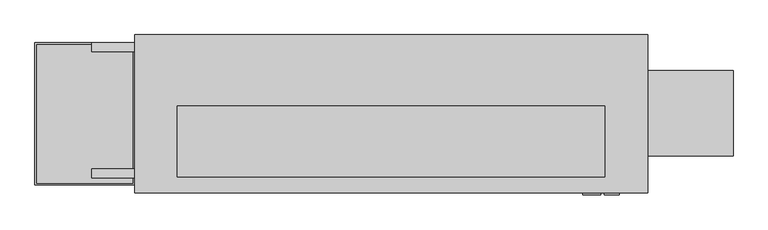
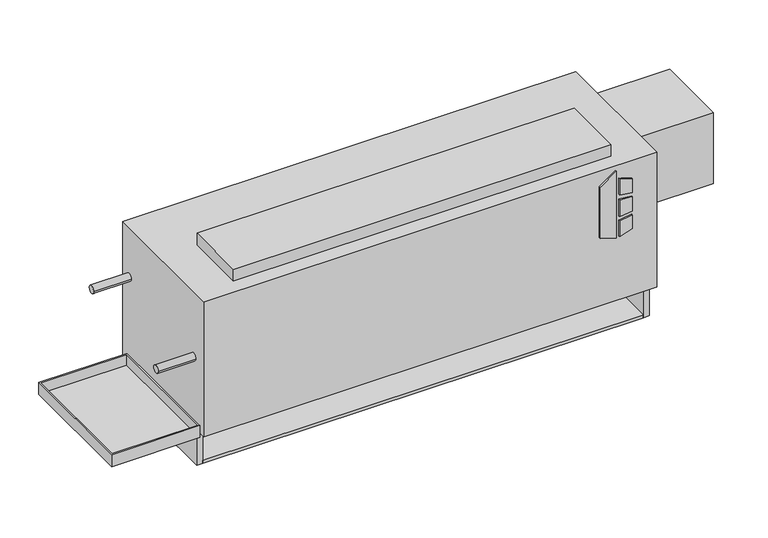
"""IFC4 building model written with IfcOpenShell, lengths in millimetres: proxy geometry, Concealed_Vertical_Low_Boy_Fan_Coil_Unit Fan_-_LHA_-_IEC_-_2-Pipe_LH_2022 : Size 04 - 277v/60Hz/1Ph - 2/1 Coil."""

from ifc_helpers import new_model, si_unit, point, frame, frame_2d, origin, origin_with_axes, place, context, project, spatial, polyline, circle_curve, trimmed, segment, composite_curve, outline, extrude, faceted_brep, source, transform, mapped, element, save


def mechanical_equipment_c72fa6f0(model_context):
    return source(origin(), model_context, "Body", "SolidModel", [
        faceted_brep([(152.4, -252.4125, 92.075), (-25.4, -252.4125, 92.075), (-25.4, -506.4125, 92.075), (152.4, -506.4125, 92.075), (-22.225, -255.5875, 92.075), (149.225, -255.5875, 92.075), (149.225, -503.2375, 92.075), (-22.225, -503.2375, 92.075), (152.4, -252.4125, 66.675), (152.4, -506.4125, 66.675), (-25.4, -506.4125, 66.675), (-25.4, -252.4125, 66.675), (149.225, -255.5875, 69.8497888), (-22.225, -255.5875, 69.8497888), (-22.225, -503.2375, 69.8497888), (149.225, -503.2375, 69.8497888)], [[[0, 1, 2, 3], [4, 5, 6, 7]], [[8, 9, 10, 11]], [[1, 0, 8, 11]], [[2, 1, 11, 10]], [[3, 2, 10, 9]], [[0, 3, 9, 8]], [[12, 13, 14, 15]], [[13, 12, 5, 4]], [[14, 13, 4, 7]], [[15, 14, 7, 6]], [[12, 15, 6, 5]]]),
        extrude(outline(composite_curve([segment(trimmed(circle_curve(frame_2d((63.5, -379.4125)), 9.525), [point((53.975, -379.4125))], [point((73.025, -379.4125))], False, "CARTESIAN"), True, "CONTINUOUS"), segment(trimmed(circle_curve(frame_2d((63.5, -379.4125)), 9.525), [point((73.025, -379.4125))], [point((53.975, -379.4125))], False, "CARTESIAN"), True, "CONTINUOUS")], self_intersect=False)), frame((0.0, 0.0, 41.275), z_axis=(0.0, 0.0, 1.0), x_axis=(1.0, 0.0, 0.0)), (0.0, 0.0, 1.0), 25.4),
        extrude(outline(polyline([(222.6730703, 950.9868862), (212.725, 983.1602728), (354.8959244, 983.1602728), (331.8739183, 950.9868862), (222.6730703, 950.9868862)])), frame((0.0, -523.875, 0.0), z_axis=(0.0, 1.0, 0.0), x_axis=(0.0, 0.0, 1.0)), (0.0, 0.0, 1.0), 3.175),
        extrude(outline(polyline([(301.6723557, 989.9186058), (298.4699632, 1016.0), (327.6988042, 1016.0), (335.7632193, 989.9186058), (301.6723557, 989.9186058)])), frame((0.0, -523.875, 0.0), z_axis=(0.0, 1.0, 0.0), x_axis=(0.0, 0.0, 1.0)), (0.0, 0.0, 1.0), 3.175),
        extrude(outline(polyline([(249.8088288, 1016.0), (246.1433279, 989.9186058), (212.725, 989.9186058), (221.3592372, 1016.0), (249.8088288, 1016.0)])), frame((0.0, -523.875, 0.0), z_axis=(0.0, 1.0, 0.0), x_axis=(0.0, 0.0, 1.0)), (0.0, 0.0, 1.0), 3.175),
        extrude(outline(polyline([(289.1239903, 1016.0), (291.4058166, 989.9186058), (255.4682681, 989.9186058), (258.2095331, 1016.0), (289.1239903, 1016.0)])), frame((0.0, -523.875, 0.0), z_axis=(0.0, 1.0, 0.0), x_axis=(0.0, 0.0, 1.0)), (0.0, 0.0, 1.0), 3.175),
        extrude(outline(polyline([(990.6, -365.125), (990.6, -492.125), (228.6, -492.125), (228.6, -365.125), (990.6, -365.125)])), frame((0.0, 0.0, 365.125), z_axis=(0.0, 0.0, 1.0), x_axis=(1.0, 0.0, 0.0)), (0.0, 0.0, 1.0), 25.4),
        extrude(outline(polyline([(1066.8, -520.7), (152.4, -520.7), (152.4, -238.125), (1066.8, -238.125), (1066.8, -520.7)])), frame((0.0, 0.0, 76.2), z_axis=(0.0, 0.0, 1.0), x_axis=(1.0, 0.0, 0.0)), (0.0, 0.0, 1.0), 288.925),
        extrude(outline(polyline([(1054.1, -495.3), (165.1, -495.3), (165.1, -244.475), (1054.1, -244.475), (1054.1, -495.3)])), origin_with_axes(), (0.0, 0.0, 1.0), 6.35),
        extrude(outline(polyline([(1054.1, -238.125), (1054.1, -244.475), (165.1, -244.475), (165.1, -238.125), (1054.1, -238.125)])), origin_with_axes(), (0.0, 0.0, 1.0), 76.2),
        extrude(outline(polyline([(1066.8, -238.125), (1066.8, -495.3), (1054.1, -495.3), (1054.1, -238.125), (1066.8, -238.125)])), origin_with_axes(), (0.0, 0.0, 1.0), 76.2),
        extrude(outline(polyline([(165.1, -238.125), (165.1, -495.3), (152.4, -495.3), (152.4, -238.125), (165.1, -238.125)])), origin_with_axes(), (0.0, 0.0, 1.0), 76.2),
        extrude(outline(composite_curve([segment(trimmed(circle_curve(frame_2d((-260.35, 260.35)), 7.9375), [point((-252.4125, 260.35))], [point((-268.2875, 260.35))], False, "CARTESIAN"), True, "CONTINUOUS"), segment(trimmed(circle_curve(frame_2d((-260.35, 260.35)), 7.9375), [point((-268.2875, 260.35))], [point((-252.4125, 260.35))], False, "CARTESIAN"), True, "CONTINUOUS")], self_intersect=False)), frame((76.2, 0.0, 0.0), z_axis=(1.0, 0.0, 0.0), x_axis=(0.0, 1.0, 0.0)), (0.0, 0.0, 1.0), 76.2),
        extrude(outline(composite_curve([segment(trimmed(circle_curve(frame_2d((-485.775, 227.0125)), 7.9375), [point((-477.8375, 227.0125))], [point((-493.7125, 227.0125))], False, "CARTESIAN"), True, "CONTINUOUS"), segment(trimmed(circle_curve(frame_2d((-485.775, 227.0125)), 7.9375), [point((-493.7125, 227.0125))], [point((-477.8375, 227.0125))], False, "CARTESIAN"), True, "CONTINUOUS")], self_intersect=False)), frame((76.2, 0.0, 0.0), z_axis=(1.0, 0.0, 0.0), x_axis=(0.0, 1.0, 0.0)), (0.0, 0.0, 1.0), 76.2),
        extrude(outline(polyline([(1066.8, -301.625), (1219.2, -301.625), (1219.2, -454.025), (1066.8, -454.025), (1066.8, -301.625)])), frame((0.0, 0.0, 203.5632719), z_axis=(0.0, 0.0, 1.0), x_axis=(1.0, 0.0, 0.0)), (0.0, 0.0, 1.0), 152.0367281),
    ])


if __name__ == "__main__":
    model = new_model("IFC4")
    model_context = context("Model", 3, world=origin())
    ifc_project = project(units=[si_unit("LENGTHUNIT", "METRE", prefix="MILLI")], contexts=[model_context])
    site = spatial("IfcSite", under=ifc_project)
    building = spatial("IfcBuilding", under=site)
    placement = place(None, origin())
    mechanical_equipment_shape = mechanical_equipment_c72fa6f0(model_context)
    element("IfcBuildingElementProxy", 1, Name="Concealed_Vertical_Low_Boy_Fan_Coil_Unit Fan_-_LHA_-_IEC_-_2-Pipe_LH_2022 : Size 04 - 277v/60Hz/1Ph - 2/1 Coil", ObjectType="Concealed_Vertical_Low_Boy_Fan_Coil_Unit Fan_-_LHA_-_IEC_-_2-Pipe_LH_2022 : Size 04 - 277v/60Hz/1Ph - 2/1 Coil", at=placement, inside=building, context=model_context, shape_type="MappedRepresentation", body=[
        mapped(mechanical_equipment_shape, transform((0.0, 0.0, 0.0), x_axis=(1.0, 0.0, 0.0), y_axis=(0.0, 1.0, 0.0), z_axis=(0.0, 0.0, 1.0))),
    ])
    save(model, "model.ifc")
